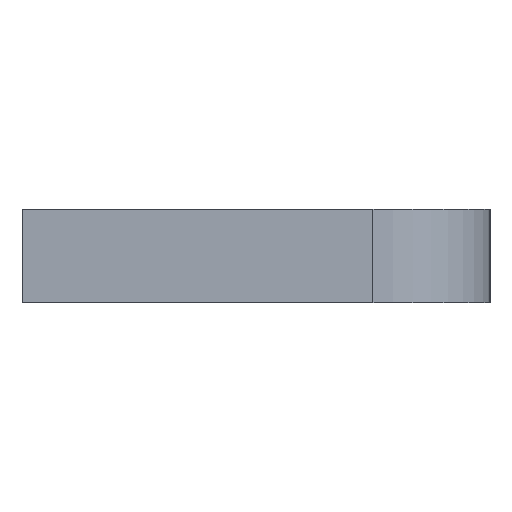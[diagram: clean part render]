
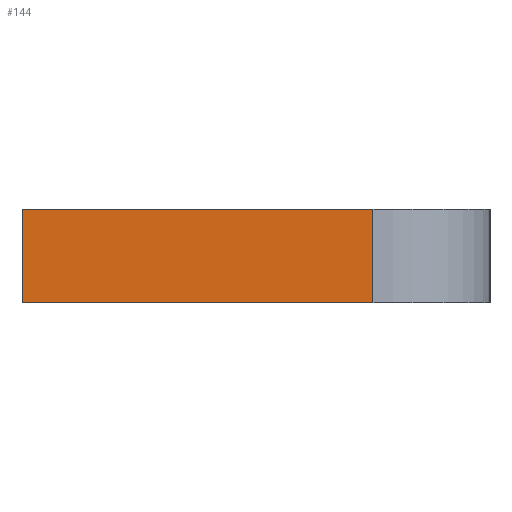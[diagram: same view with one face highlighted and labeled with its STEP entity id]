
A CAD part, left-side view. The second image highlights one B-rep face of the part: STEP entity #144.
In plain terms, the highlighted planar face has unit normal (-1, 0, 0).
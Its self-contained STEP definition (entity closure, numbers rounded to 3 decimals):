
#32 = EDGE_CURVE('',#33,#35,#37,.T.);
#33 = VERTEX_POINT('',#34);
#34 = CARTESIAN_POINT('',(100.,94.,210.5));
#35 = VERTEX_POINT('',#36);
#36 = CARTESIAN_POINT('',(100.,101.5,210.5));
#37 = LINE('',#38,#39);
#38 = CARTESIAN_POINT('',(100.,91.5,210.5));
#39 = VECTOR('',#40,1.);
#40 = DIRECTION('',(0.,1.,0.));
#144 = ADVANCED_FACE('',(#145),#170,.F.);
#145 = FACE_BOUND('',#146,.F.);
#146 = EDGE_LOOP('',(#147,#157,#163,#164));
#147 = ORIENTED_EDGE('',*,*,#148,.F.);
#148 = EDGE_CURVE('',#149,#151,#153,.T.);
#149 = VERTEX_POINT('',#150);
#150 = CARTESIAN_POINT('',(100.,94.,212.5));
#151 = VERTEX_POINT('',#152);
#152 = CARTESIAN_POINT('',(100.,101.5,212.5));
#153 = LINE('',#154,#155);
#154 = CARTESIAN_POINT('',(100.,91.5,212.5));
#155 = VECTOR('',#156,1.);
#156 = DIRECTION('',(0.,1.,0.));
#157 = ORIENTED_EDGE('',*,*,#158,.F.);
#158 = EDGE_CURVE('',#33,#149,#159,.T.);
#159 = LINE('',#160,#161);
#160 = CARTESIAN_POINT('',(100.,94.,210.5));
#161 = VECTOR('',#162,1.);
#162 = DIRECTION('',(0.,0.,1.));
#163 = ORIENTED_EDGE('',*,*,#32,.T.);
#164 = ORIENTED_EDGE('',*,*,#165,.T.);
#165 = EDGE_CURVE('',#35,#151,#166,.T.);
#166 = LINE('',#167,#168);
#167 = CARTESIAN_POINT('',(100.,101.5,210.5));
#168 = VECTOR('',#169,1.);
#169 = DIRECTION('',(0.,0.,1.));
#170 = PLANE('',#171);
#171 = AXIS2_PLACEMENT_3D('',#172,#173,#174);
#172 = CARTESIAN_POINT('',(100.,91.5,210.5));
#173 = DIRECTION('',(1.,0.,0.));
#174 = DIRECTION('',(0.,0.,1.));
